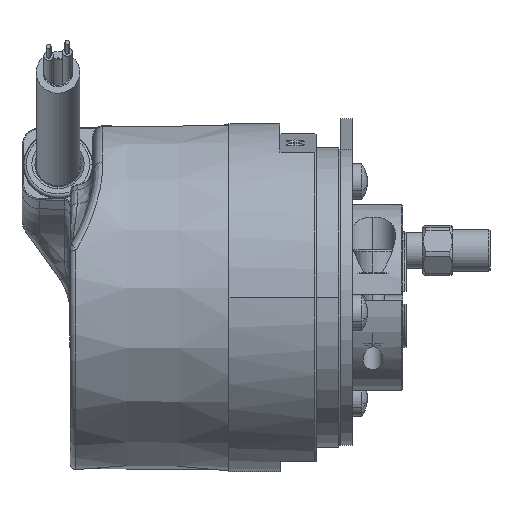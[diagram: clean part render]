
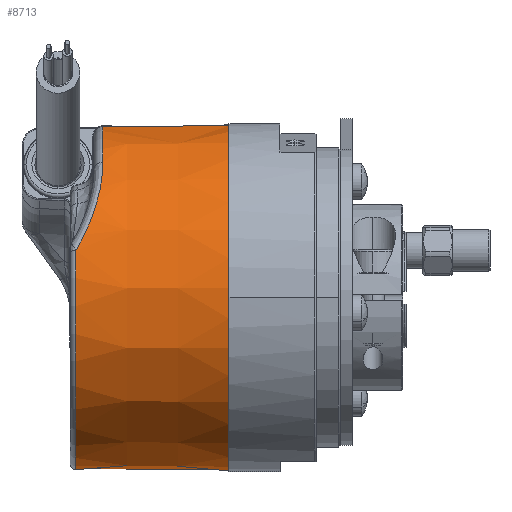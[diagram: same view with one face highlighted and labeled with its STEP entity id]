
A CAD part, top view. The second image highlights one B-rep face of the part: STEP entity #8713.
In plain terms, the highlighted conical face has half-angle 0.5 degrees and reference radius 29 mm.
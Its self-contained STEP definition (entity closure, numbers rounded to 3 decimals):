
#460 = CARTESIAN_POINT ( 'NONE',  ( -13.513, 22.576, 17.747 ) ) ;
#461 = CARTESIAN_POINT ( 'NONE',  ( -13.513, 28.502, 3.5 ) ) ;
#462 = DIRECTION ( 'NONE',  ( 0., -0.993, -0.122 ) ) ;
#463 = DIRECTION ( 'NONE',  ( 1., 0., 0. ) ) ;
#464 = AXIS2_PLACEMENT_3D ( 'NONE', #495, #463, #462 ) ;
#465 = CIRCLE ( 'NONE', #464, 28.716 ) ;
#495 = CARTESIAN_POINT ( 'NONE',  ( -13.513, 0., 0. ) ) ;
#1251 = AXIS2_PLACEMENT_3D ( 'NONE', #1330, #1328, #1418 ) ;
#1328 = DIRECTION ( 'NONE',  ( 1., 0., 0. ) ) ;
#1330 = CARTESIAN_POINT ( 'NONE',  ( -18.009, 0., 0. ) ) ;
#1351 = CARTESIAN_POINT ( 'NONE',  ( -18.009, 7.822, 27.59 ) ) ;
#1418 = DIRECTION ( 'NONE',  ( 0., 0.993, 0.122 ) ) ;
#1438 = CIRCLE ( 'NONE', #1251, 28.677 ) ;
#1443 = CARTESIAN_POINT ( 'NONE',  ( -18.009, -28.463, -3.495 ) ) ;
#1528 = CARTESIAN_POINT ( 'NONE',  ( 7.5, -28.684, -3.522 ) ) ;
#8711 = ORIENTED_EDGE ( 'NONE', *, *, #8712, .F. ) ;
#8712 = EDGE_CURVE ( 'NONE', #10074, #9856, #15054, .T. ) ;
#8713 = ADVANCED_FACE ( 'NONE', ( #15089 ), #15111, .T. ) ;
#8730 = ORIENTED_EDGE ( 'NONE', *, *, #9815, .T. ) ;
#8732 = EDGE_CURVE ( 'NONE', #9576, #9816, #17448, .T. ) ;
#8733 = ORIENTED_EDGE ( 'NONE', *, *, #10035, .T. ) ;
#8746 = ORIENTED_EDGE ( 'NONE', *, *, #10073, .F. ) ;
#8752 = ORIENTED_EDGE ( 'NONE', *, *, #8732, .T. ) ;
#8759 = ORIENTED_EDGE ( 'NONE', *, *, #9574, .T. ) ;
#8760 = EDGE_LOOP ( 'NONE', ( #8746, #8759, #8752, #8730, #8733, #8711 ) ) ;
#9574 = EDGE_CURVE ( 'NONE', #9575, #9576, #465, .T. ) ;
#9575 = VERTEX_POINT ( 'NONE', #461 ) ;
#9576 = VERTEX_POINT ( 'NONE', #460 ) ;
#9815 = EDGE_CURVE ( 'NONE', #9816, #9835, #1438, .T. ) ;
#9816 = VERTEX_POINT ( 'NONE', #1351 ) ;
#9835 = VERTEX_POINT ( 'NONE', #1443 ) ;
#9856 = VERTEX_POINT ( 'NONE', #1528 ) ;
#10035 = EDGE_CURVE ( 'NONE', #9835, #9856, #12843, .T. ) ;
#10073 = EDGE_CURVE ( 'NONE', #9575, #10074, #12876, .T. ) ;
#10074 = VERTEX_POINT ( 'NONE', #12872 ) ;
#12840 = DIRECTION ( 'NONE',  ( 1., -0.009, -0.001 ) ) ;
#12841 = VECTOR ( 'NONE', #12840, 1000. ) ;
#12842 = CARTESIAN_POINT ( 'NONE',  ( 19., -28.784, -3.534 ) ) ;
#12843 = LINE ( 'NONE', #12842, #12841 ) ;
#12872 = CARTESIAN_POINT ( 'NONE',  ( 7.5, 28.684, 3.522 ) ) ;
#12873 = DIRECTION ( 'NONE',  ( 1., 0.009, 0.001 ) ) ;
#12874 = VECTOR ( 'NONE', #12873, 1000. ) ;
#12875 = CARTESIAN_POINT ( 'NONE',  ( 19., 28.784, 3.534 ) ) ;
#12876 = LINE ( 'NONE', #12875, #12874 ) ;
#15054 = CIRCLE ( 'NONE', #15092, 28.9 ) ;
#15089 = FACE_OUTER_BOUND ( 'NONE', #8760, .T. ) ;
#15090 = DIRECTION ( 'NONE',  ( 0., -0.993, -0.122 ) ) ;
#15091 = DIRECTION ( 'NONE',  ( 1., 0., 0. ) ) ;
#15092 = AXIS2_PLACEMENT_3D ( 'NONE', #15125, #15091, #15090 ) ;
#15111 = CONICAL_SURFACE ( 'NONE', #15149, 29., 0.009 ) ;
#15125 = CARTESIAN_POINT ( 'NONE',  ( 7.5, 0., 0. ) ) ;
#15146 = DIRECTION ( 'NONE',  ( 0., -0.993, -0.122 ) ) ;
#15147 = DIRECTION ( 'NONE',  ( 1., 0., 0. ) ) ;
#15148 = CARTESIAN_POINT ( 'NONE',  ( 19., 0., 0. ) ) ;
#15149 = AXIS2_PLACEMENT_3D ( 'NONE', #15148, #15147, #15146 ) ;
#17423 = CARTESIAN_POINT ( 'NONE',  ( -18.009, 7.822, 27.59 ) ) ;
#17424 = CARTESIAN_POINT ( 'NONE',  ( -17.619, 8.483, 27.406 ) ) ;
#17425 = CARTESIAN_POINT ( 'NONE',  ( -17.253, 9.148, 27.195 ) ) ;
#17426 = CARTESIAN_POINT ( 'NONE',  ( -16.572, 10.484, 26.715 ) ) ;
#17427 = CARTESIAN_POINT ( 'NONE',  ( -16.255, 11.157, 26.444 ) ) ;
#17428 = CARTESIAN_POINT ( 'NONE',  ( -15.389, 13.156, 25.549 ) ) ;
#17429 = CARTESIAN_POINT ( 'NONE',  ( -14.923, 14.459, 24.842 ) ) ;
#17430 = CARTESIAN_POINT ( 'NONE',  ( -14.374, 16.358, 23.605 ) ) ;
#17431 = CARTESIAN_POINT ( 'NONE',  ( -14.216, 16.981, 23.163 ) ) ;
#17432 = CARTESIAN_POINT ( 'NONE',  ( -14.016, 17.9, 22.453 ) ) ;
#17433 = CARTESIAN_POINT ( 'NONE',  ( -13.955, 18.204, 22.207 ) ) ;
#17434 = CARTESIAN_POINT ( 'NONE',  ( -13.846, 18.801, 21.705 ) ) ;
#17435 = CARTESIAN_POINT ( 'NONE',  ( -13.798, 19.095, 21.448 ) ) ;
#17436 = CARTESIAN_POINT ( 'NONE',  ( -13.587, 20.534, 20.134 ) ) ;
#17440 = CARTESIAN_POINT ( 'NONE',  ( -13.513, 21.6, 18.988 ) ) ;
#17441 = CARTESIAN_POINT ( 'NONE',  ( -13.513, 22.576, 17.747 ) ) ;
#17448 = B_SPLINE_CURVE_WITH_KNOTS ( 'NONE', 3,
 ( #17441, #17440, #17436, #17435, #17434, #17433, #17432, #17431, #17430, #17429, #17428, #17427, #17426, #17425, #17424, #17423 ),
 .UNSPECIFIED., .F., .F.,
 ( 4, 2, 2, 2, 2, 2, 2, 4 ),
 ( 0., 0.005, 0.006, 0.007, 0.009, 0.014, 0.016, 0.019 ),
 .UNSPECIFIED. ) ;
